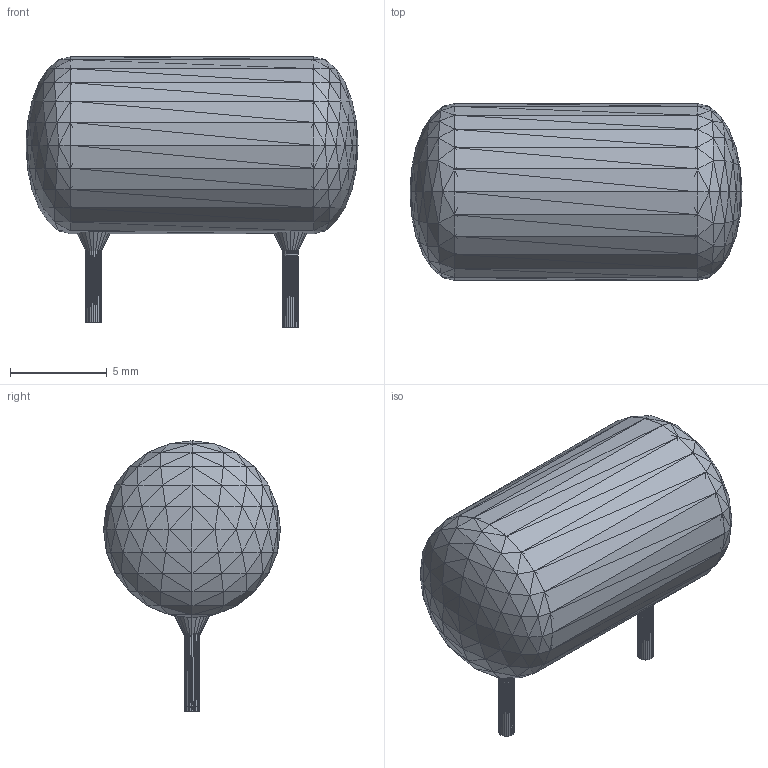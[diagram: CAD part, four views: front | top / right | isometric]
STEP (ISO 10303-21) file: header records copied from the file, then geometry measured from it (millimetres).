
FILE_DESCRIPTION(('HOOPS Exchange Step'),'2;1');
FILE_NAME('***.stp');
FILE_SCHEMA( ('AP242_MANAGED_MODEL_BASED_3D_ENGINEERING_MIM_LF {1 0 10303 442 1 1 4 }') );
Length unit declared in the file: inch
Products named in the file (8): CAPORGMDSMNF_2; CAPORGMDSMNF_3; CAPORGMDSMNF_4; CAPORGMDSMNF_5; CAPORGMDSMNF_6; CAPORGMDSMNF_7; CAPORGMDSMNF_8; CAPORGMDSMNF
Assembly tree (7 placements, depth 2):
  CAPORGMDSMNF
    CAPORGMDSMNF_2
    CAPORGMDSMNF_3
    CAPORGMDSMNF_4
    CAPORGMDSMNF_5
    CAPORGMDSMNF_6
    CAPORGMDSMNF_7
    CAPORGMDSMNF_8
Bounding box: 17.14 x 9.14 x 13.97 mm (x, y, z)
Surface area: 1797.7 mm2 (no closed solid volume)
Topology: 0 solids, 1920 shells, 1920 faces, 1440 edges, 494 vertices
Faces by surface type: plane 1920
Entity records: 29644 total; most frequent: ORIENTED_EDGE 5760, DIRECTION 5312, CARTESIAN_POINT 3870, AXIS2_PLACEMENT_3D 1936, PLANE 1920, EDGE_LOOP 1920, FACE_BOUND 1920, ADVANCED_FACE 1920
